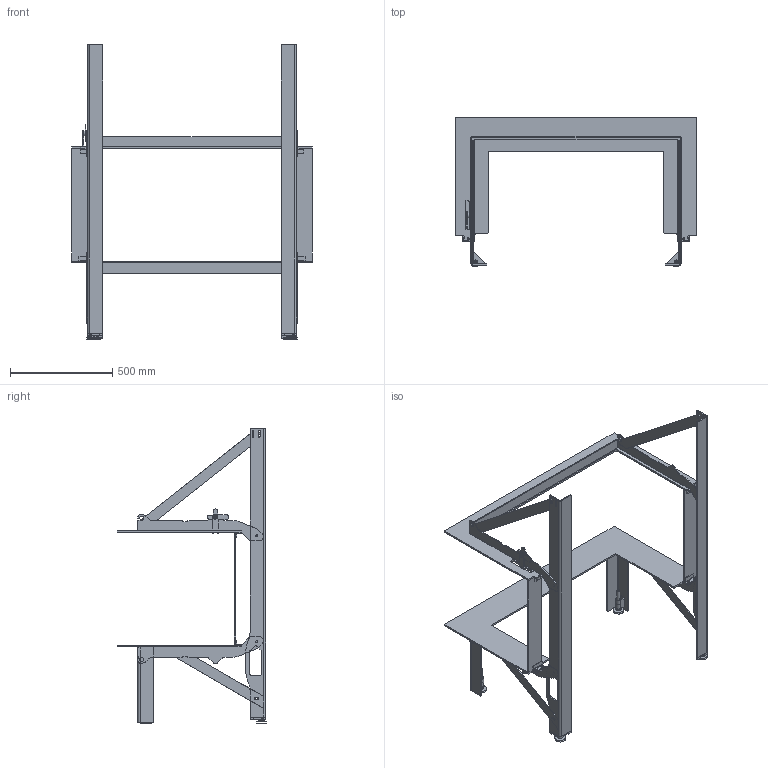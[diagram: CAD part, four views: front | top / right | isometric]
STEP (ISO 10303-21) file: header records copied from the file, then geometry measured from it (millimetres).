
FILE_DESCRIPTION(/* description */ (''),/* implementation_level */ '2;1');
FILE_NAME(/* name */ 'C:\ADSK_DM_WS\CAD_3D\03 Geraete\RIII 55x100x46\Zeichnungen\RIII 55x100x46 Einbaurahmen freistehend CAD Planung defriten 2017-01535 190919.stp',/* time_stamp */ '2019-09-19T11:32:02+02:00',/* author */ ('cpi'),/* organization */ (''),/* preprocessor_version */ 'ST-DEVELOPER v17.2',/* originating_system */ 'Autodesk Inventor 2019',/* authorisation */ '');
FILE_SCHEMA (('AUTOMOTIVE_DESIGN { 1 0 10303 214 3 1 1 }'));
Length unit declared in the file: millimetre
Products named in the file (1): 2019-02751
Bounding box: 1175 x 731.44 x 1443.5 mm (x, y, z)
Volume: 9901524 mm3; surface area: 3187710.1 mm2
Topology: 5 solids, 5 shells, 1045 faces, 2965 edges, 1904 vertices
Faces by surface type: plane 565, cylinder 412, cone 68
Full cylindrical faces by diameter (mm): 10 x5, 10.21 x2, 10.4 x1, 10.5 x13, 16 x6, 17 x2, 20 x2, 25 x2, 30 x4
Entity records: 35414 total; most frequent: CARTESIAN_POINT 6635, ORIENTED_EDGE 5930, DIRECTION 5901, EDGE_CURVE 2965, AXIS2_PLACEMENT_3D 2060, VERTEX_POINT 1904, LINE 1781, VECTOR 1781
